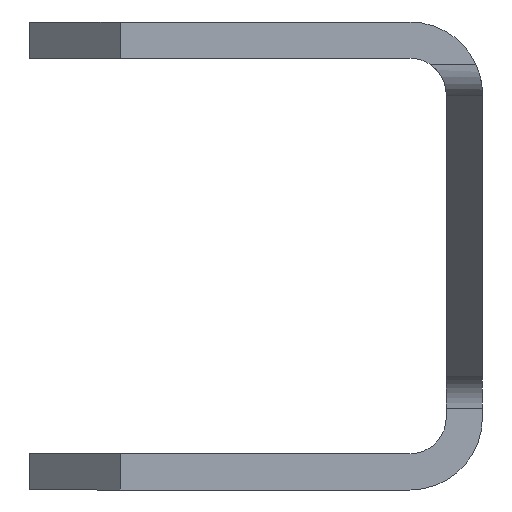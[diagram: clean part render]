
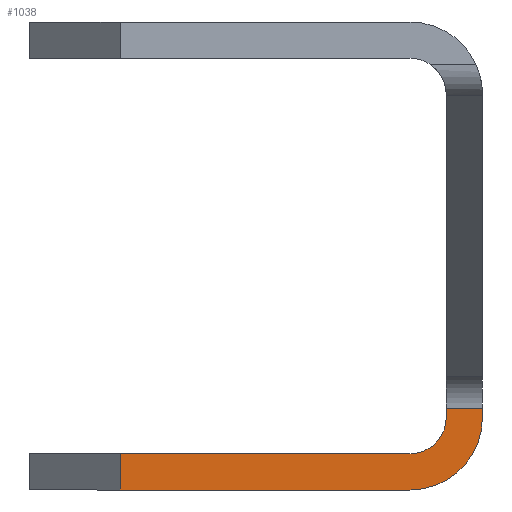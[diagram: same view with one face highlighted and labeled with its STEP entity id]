
A CAD part, left-side view. The second image highlights one B-rep face of the part: STEP entity #1038.
In plain terms, the highlighted planar face has unit normal (-1, 0, 0).
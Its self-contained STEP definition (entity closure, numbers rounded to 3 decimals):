
#53 = DIRECTION ( 'NONE',  ( 1., 0., 0. ) ) ;
#57 = LINE ( 'NONE', #74, #704 ) ;
#74 = CARTESIAN_POINT ( 'NONE',  ( -187.5, 7.5, -5.046 ) ) ;
#87 = PLANE ( 'NONE',  #720 ) ;
#115 = CARTESIAN_POINT ( 'NONE',  ( -187.5, 7.5, -4.35 ) ) ;
#127 = DIRECTION ( 'NONE',  ( 0., 0., -1. ) ) ;
#158 = DIRECTION ( 'NONE',  ( 0., 1., 0. ) ) ;
#453 = ORIENTED_EDGE ( 'NONE', *, *, #1031, .T. ) ;
#475 = EDGE_LOOP ( 'NONE', ( #1581, #1624, #494, #1597, #1574, #453, #1570, #1562 ) ) ;
#494 = ORIENTED_EDGE ( 'NONE', *, *, #1095, .T. ) ;
#704 = VECTOR ( 'NONE', #158, 1000. ) ;
#715 = FACE_OUTER_BOUND ( 'NONE', #475, .T. ) ;
#720 = AXIS2_PLACEMENT_3D ( 'NONE', #115, #53, #127 ) ;
#757 = AXIS2_PLACEMENT_3D ( 'NONE', #2134, #2106, #2107 ) ;
#760 = VECTOR ( 'NONE', #2122, 1000. ) ;
#772 = VECTOR ( 'NONE', #2117, 1000. ) ;
#843 = VECTOR ( 'NONE', #1696, 1000. ) ;
#849 = VECTOR ( 'NONE', #1764, 1000. ) ;
#907 = AXIS2_PLACEMENT_3D ( 'NONE', #1361, #1268, #1415 ) ;
#937 = VECTOR ( 'NONE', #1445, 1000. ) ;
#1031 = EDGE_CURVE ( 'NONE', #2164, #2166, #57, .T. ) ;
#1038 = ADVANCED_FACE ( 'NONE', ( #715 ), #87, .F. ) ;
#1049 = EDGE_CURVE ( 'NONE', #2153, #2185, #2118, .T. ) ;
#1050 = EDGE_CURVE ( 'NONE', #2159, #2165, #1824, .T. ) ;
#1054 = EDGE_CURVE ( 'NONE', #2159, #2153, #2125, .T. ) ;
#1095 = EDGE_CURVE ( 'NONE', #2185, #2162, #1739, .T. ) ;
#1101 = EDGE_CURVE ( 'NONE', #2164, #2179, #1774, .T. ) ;
#1160 = EDGE_CURVE ( 'NONE', #2162, #2179, #1883, .T. ) ;
#1188 = EDGE_CURVE ( 'NONE', #2166, #2165, #1346, .T. ) ;
#1268 = DIRECTION ( 'NONE',  ( -1., 0., 0. ) ) ;
#1346 = LINE ( 'NONE', #1441, #937 ) ;
#1361 = CARTESIAN_POINT ( 'NONE',  ( -187.5, -5.1, -5.35 ) ) ;
#1415 = DIRECTION ( 'NONE',  ( 0., 0., -1. ) ) ;
#1441 = CARTESIAN_POINT ( 'NONE',  ( -187.5, -6.3, 7.75 ) ) ;
#1445 = DIRECTION ( 'NONE',  ( 0., 0., -1. ) ) ;
#1562 = ORIENTED_EDGE ( 'NONE', *, *, #1050, .F. ) ;
#1570 = ORIENTED_EDGE ( 'NONE', *, *, #1188, .T. ) ;
#1574 = ORIENTED_EDGE ( 'NONE', *, *, #1101, .F. ) ;
#1581 = ORIENTED_EDGE ( 'NONE', *, *, #1054, .T. ) ;
#1597 = ORIENTED_EDGE ( 'NONE', *, *, #1160, .T. ) ;
#1624 = ORIENTED_EDGE ( 'NONE', *, *, #1049, .T. ) ;
#1638 = CARTESIAN_POINT ( 'NONE',  ( -187.5, 7.5, -7.75 ) ) ;
#1696 = DIRECTION ( 'NONE',  ( 0., -1., 0. ) ) ;
#1739 = LINE ( 'NONE', #1638, #843 ) ;
#1759 = CARTESIAN_POINT ( 'NONE',  ( -187.5, -7.5, -4.35 ) ) ;
#1764 = DIRECTION ( 'NONE',  ( 0., 0., -1. ) ) ;
#1774 = LINE ( 'NONE', #1759, #849 ) ;
#1824 = CIRCLE ( 'NONE', #757, 1.2 ) ;
#1883 = CIRCLE ( 'NONE', #907, 2.4 ) ;
#1900 = CARTESIAN_POINT ( 'NONE',  ( -187.5, 4.5, -7.75 ) ) ;
#1917 = CARTESIAN_POINT ( 'NONE',  ( -187.5, -5.1, -6.55 ) ) ;
#1918 = CARTESIAN_POINT ( 'NONE',  ( -187.5, -7.5, -5.35 ) ) ;
#1921 = CARTESIAN_POINT ( 'NONE',  ( -187.5, -7.5, -5.046 ) ) ;
#1922 = CARTESIAN_POINT ( 'NONE',  ( -187.5, -5.1, -7.75 ) ) ;
#1993 = CARTESIAN_POINT ( 'NONE',  ( -187.5, 4.5, -6.55 ) ) ;
#1998 = CARTESIAN_POINT ( 'NONE',  ( -187.5, -6.3, -5.046 ) ) ;
#2000 = CARTESIAN_POINT ( 'NONE',  ( -187.5, -6.3, -5.35 ) ) ;
#2106 = DIRECTION ( 'NONE',  ( -1., 0., 0. ) ) ;
#2107 = DIRECTION ( 'NONE',  ( 0., 0., -1. ) ) ;
#2114 = CARTESIAN_POINT ( 'NONE',  ( -187.5, 7.5, -6.55 ) ) ;
#2117 = DIRECTION ( 'NONE',  ( 0., 1., 0. ) ) ;
#2118 = LINE ( 'NONE', #2120, #760 ) ;
#2120 = CARTESIAN_POINT ( 'NONE',  ( -187.5, 4.5, -4.35 ) ) ;
#2122 = DIRECTION ( 'NONE',  ( 0., 0., -1. ) ) ;
#2125 = LINE ( 'NONE', #2114, #772 ) ;
#2134 = CARTESIAN_POINT ( 'NONE',  ( -187.5, -5.1, -5.35 ) ) ;
#2153 = VERTEX_POINT ( 'NONE', #1993 ) ;
#2159 = VERTEX_POINT ( 'NONE', #1917 ) ;
#2162 = VERTEX_POINT ( 'NONE', #1922 ) ;
#2164 = VERTEX_POINT ( 'NONE', #1921 ) ;
#2165 = VERTEX_POINT ( 'NONE', #2000 ) ;
#2166 = VERTEX_POINT ( 'NONE', #1998 ) ;
#2179 = VERTEX_POINT ( 'NONE', #1918 ) ;
#2185 = VERTEX_POINT ( 'NONE', #1900 ) ;
